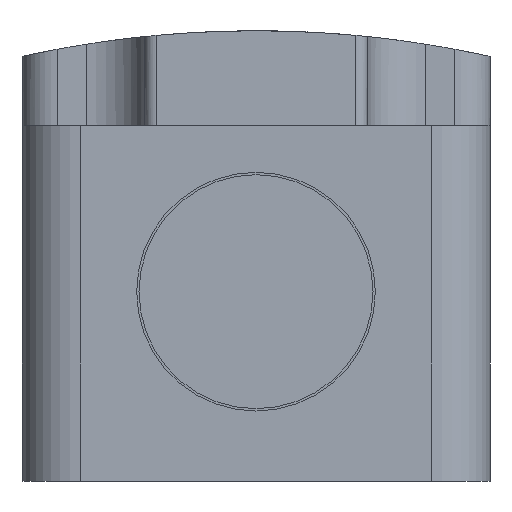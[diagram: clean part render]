
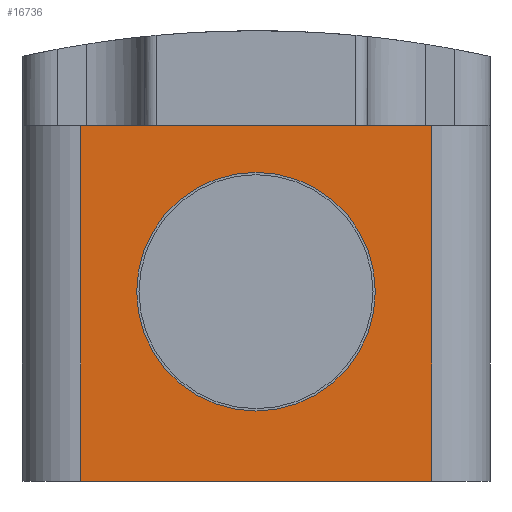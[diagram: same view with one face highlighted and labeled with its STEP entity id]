
A CAD part, front view. The second image highlights one B-rep face of the part: STEP entity #16736.
In plain terms, the highlighted planar face has unit normal (0, -1, 0).
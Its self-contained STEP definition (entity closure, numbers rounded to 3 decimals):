
#242 = ORIENTED_EDGE ( 'NONE', *, *, #12955, .T. ) ;
#302 = VERTEX_POINT ( 'NONE', #17288 ) ;
#829 = CARTESIAN_POINT ( 'NONE',  ( 15., -66., -16.2 ) ) ;
#903 = DIRECTION ( 'NONE',  ( 1., 0., 0. ) ) ;
#1410 = DIRECTION ( 'NONE',  ( 0., -1., 0. ) ) ;
#1781 = VERTEX_POINT ( 'NONE', #19861 ) ;
#1820 = EDGE_CURVE ( 'NONE', #17438, #10088, #15827, .T. ) ;
#1838 = LINE ( 'NONE', #18759, #9801 ) ;
#2197 = DIRECTION ( 'NONE',  ( 0., -1., 0. ) ) ;
#2206 = FACE_OUTER_BOUND ( 'NONE', #12253, .T. ) ;
#2603 = VERTEX_POINT ( 'NONE', #6964 ) ;
#3459 = ORIENTED_EDGE ( 'NONE', *, *, #11962, .T. ) ;
#4238 = ORIENTED_EDGE ( 'NONE', *, *, #14869, .T. ) ;
#4865 = LINE ( 'NONE', #829, #17103 ) ;
#4971 = EDGE_CURVE ( 'NONE', #2603, #302, #18336, .T. ) ;
#5047 = CARTESIAN_POINT ( 'NONE',  ( 0., -66., 0. ) ) ;
#6643 = DIRECTION ( 'NONE',  ( 0., 0., -1. ) ) ;
#6738 = EDGE_CURVE ( 'NONE', #302, #2603, #9052, .T. ) ;
#6964 = CARTESIAN_POINT ( 'NONE',  ( 0., -66., 10.2 ) ) ;
#7339 = VECTOR ( 'NONE', #903, 1000. ) ;
#7409 = CARTESIAN_POINT ( 'NONE',  ( 15., -66., 14.2 ) ) ;
#7804 = PLANE ( 'NONE',  #20284 ) ;
#8234 = LINE ( 'NONE', #10419, #20464 ) ;
#9052 = CIRCLE ( 'NONE', #14601, 10.2 ) ;
#9355 = CARTESIAN_POINT ( 'NONE',  ( -15., -66., -16.2 ) ) ;
#9396 = DIRECTION ( 'NONE',  ( 0., 0., -1. ) ) ;
#9801 = VECTOR ( 'NONE', #20363, 1000. ) ;
#10088 = VERTEX_POINT ( 'NONE', #7409 ) ;
#10370 = DIRECTION ( 'NONE',  ( 0., 0., 1. ) ) ;
#10419 = CARTESIAN_POINT ( 'NONE',  ( 20., -66., -16.2 ) ) ;
#10872 = VERTEX_POINT ( 'NONE', #9355 ) ;
#11727 = CARTESIAN_POINT ( 'NONE',  ( 0., -66., 0. ) ) ;
#11738 = CARTESIAN_POINT ( 'NONE',  ( -15., -66., 14.2 ) ) ;
#11962 = EDGE_CURVE ( 'NONE', #1781, #10088, #4865, .T. ) ;
#12253 = EDGE_LOOP ( 'NONE', ( #4238, #3459, #19378, #242 ) ) ;
#12587 = ORIENTED_EDGE ( 'NONE', *, *, #6738, .F. ) ;
#12955 = EDGE_CURVE ( 'NONE', #17438, #10872, #1838, .T. ) ;
#13334 = DIRECTION ( 'NONE',  ( 0., 0., -1. ) ) ;
#13806 = EDGE_LOOP ( 'NONE', ( #12587, #14782 ) ) ;
#14601 = AXIS2_PLACEMENT_3D ( 'NONE', #5047, #16219, #6643 ) ;
#14782 = ORIENTED_EDGE ( 'NONE', *, *, #4971, .F. ) ;
#14869 = EDGE_CURVE ( 'NONE', #10872, #1781, #8234, .T. ) ;
#15533 = AXIS2_PLACEMENT_3D ( 'NONE', #11727, #2197, #13334 ) ;
#15758 = CARTESIAN_POINT ( 'NONE',  ( 20., -66., -16.2 ) ) ;
#15827 = LINE ( 'NONE', #19986, #7339 ) ;
#16219 = DIRECTION ( 'NONE',  ( 0., -1., 0. ) ) ;
#16736 = ADVANCED_FACE ( 'NONE', ( #19668, #2206 ), #7804, .T. ) ;
#17103 = VECTOR ( 'NONE', #10370, 1000. ) ;
#17288 = CARTESIAN_POINT ( 'NONE',  ( 0., -66., -10.2 ) ) ;
#17438 = VERTEX_POINT ( 'NONE', #11738 ) ;
#18336 = CIRCLE ( 'NONE', #15533, 10.2 ) ;
#18383 = DIRECTION ( 'NONE',  ( 1., 0., 0. ) ) ;
#18759 = CARTESIAN_POINT ( 'NONE',  ( -15., -66., -16.2 ) ) ;
#19378 = ORIENTED_EDGE ( 'NONE', *, *, #1820, .F. ) ;
#19668 = FACE_BOUND ( 'NONE', #13806, .T. ) ;
#19861 = CARTESIAN_POINT ( 'NONE',  ( 15., -66., -16.2 ) ) ;
#19986 = CARTESIAN_POINT ( 'NONE',  ( 20., -66., 14.2 ) ) ;
#20284 = AXIS2_PLACEMENT_3D ( 'NONE', #15758, #1410, #9396 ) ;
#20363 = DIRECTION ( 'NONE',  ( 0., 0., -1. ) ) ;
#20464 = VECTOR ( 'NONE', #18383, 1000. ) ;
